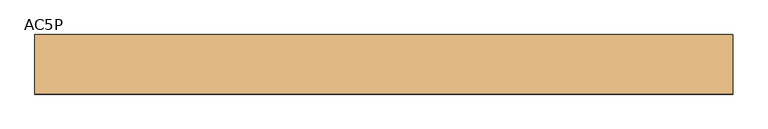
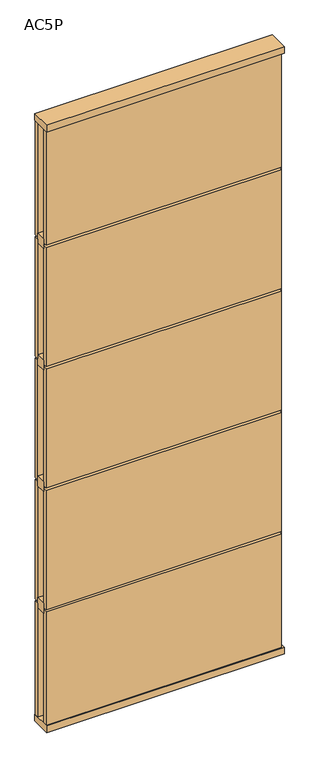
"""IFC4 building model written with IfcOpenShell, lengths in millimetres: door geometry, Mobiliário_Mobiliário de Escritório_Painel Cego - AC5P (Complementar)_Marelli : AC5P."""

import ifcopenshell
import ifcopenshell.guid

model = None  # the IFC model being written
_history = None  # IfcOwnerHistory: only IFC2X3 demands one
_inside = {}  # id of a spatial element -> (the spatial element, [elements in it])
_under = {}  # id of a project, library or spatial element -> (it, [spatial elements below it])
_declared = {}  # id of a project -> (the project, [libraries it declares])
_typed = {}  # id of a type object -> (the type object, [elements of that type])
_made_of = {}  # id of a material, layer set ... -> (it, [elements and type objects made of it])


def new_model(schema):
    """Start an empty IFC model of exactly this schema.

    Asked for "IFC4X3", IfcOpenShell would pick the latest addendum, in which some entities
    have other attributes; the version numbers below select the first issue.
    IFC2X3 requires an IfcOwnerHistory on every rooted entity: one is made here for all.
    """
    global model, _history
    if schema == "IFC4X3":
        model = ifcopenshell.file(schema_version=(4, 3, 0, 0))
    else:
        model = ifcopenshell.file(schema=schema)
    _inside.clear()
    _under.clear()
    _declared.clear()
    _typed.clear()
    _made_of.clear()
    _history = None
    if model.schema == "IFC2X3":
        org = make("IfcOrganization", Name="unknown")
        user = make(
            "IfcPersonAndOrganization",
            ThePerson=make("IfcPerson", FamilyName="unknown"),
            TheOrganization=org,
        )
        app = make(
            "IfcApplication",
            ApplicationDeveloper=org,
            Version="unknown",
            ApplicationFullName="unknown",
            ApplicationIdentifier="unknown",
        )
        _history = make(
            "IfcOwnerHistory",
            OwningUser=user,
            OwningApplication=app,
            ChangeAction="ADDED",
            CreationDate=0,
        )
    return model


def make(cls, **values):
    """One entity of the class cls with the attributes given. An attribute that is None is left unset."""
    return model.create_entity(
        cls, **{name: value for name, value in values.items() if value is not None}
    )


def rooted(cls, **values):
    """An entity with a GlobalId (a new one), such as an element, a storey or a relation."""
    return make(cls, GlobalId=ifcopenshell.guid.new(), OwnerHistory=_history, **values)


def si_unit(unit_type, name, prefix=None):
    """IfcSIUnit, for example si_unit("LENGTHUNIT", "METRE", prefix="MILLI")."""
    return make("IfcSIUnit", UnitType=unit_type, Prefix=prefix, Name=name)


def assignment(units):
    """IfcUnitAssignment: the units of a project."""
    return None if units is None else make("IfcUnitAssignment", Units=units)


def point(xyz):
    """IfcCartesianPoint."""
    return None if xyz is None else make("IfcCartesianPoint", Coordinates=xyz)


def direction(xyz):
    """IfcDirection."""
    return None if xyz is None else make("IfcDirection", DirectionRatios=xyz)


def frame(location, z_axis=None, x_axis=None):
    """IfcAxis2Placement3D, a coordinate frame: its origin and axes. An axis left out is left unset."""
    return make(
        "IfcAxis2Placement3D",
        Location=point(location),
        Axis=direction(z_axis),
        RefDirection=direction(x_axis),
    )


def origin():
    """The frame at (0, 0, 0) with its axes left unset."""
    return frame((0.0, 0.0, 0.0))


def origin_with_axes():
    """The frame at (0, 0, 0) with the z axis (0, 0, 1) and the x axis (1, 0, 0) written out."""
    return frame((0.0, 0.0, 0.0), z_axis=(0.0, 0.0, 1.0), x_axis=(1.0, 0.0, 0.0))


def place(relative_to, where):
    """IfcLocalPlacement: puts the frame where relative to a parent placement (None: the world)."""
    return make(
        "IfcLocalPlacement", PlacementRelTo=relative_to, RelativePlacement=where
    )


def context(
    kind, dimensions, precision=None, world=None, true_north=None, identifier=None
):
    """IfcGeometricRepresentationContext, for example the 3D "Model" context."""
    return make(
        "IfcGeometricRepresentationContext",
        ContextIdentifier=identifier,
        ContextType=kind,
        CoordinateSpaceDimension=dimensions,
        Precision=precision,
        WorldCoordinateSystem=world,
        TrueNorth=true_north,
    )


def project(units=None, contexts=None):
    """IfcProject with its units and contexts."""
    return rooted(
        "IfcProject",
        Name="project",
        RepresentationContexts=contexts,
        UnitsInContext=assignment(units),
    )


def spatial(cls, under=None, at=None, **own):
    """A site, building, storey or space (cls), placed at a placement, below another one or the project."""
    s = rooted(cls, ObjectPlacement=at, **own)
    if under is not None:
        _under.setdefault(under.id(), (under, []))[1].append(s)
    return s


def polyline(points):
    """IfcPolyline through the points."""
    return make("IfcPolyline", Points=[point(p) for p in points])


def outline(outer, holes=None, kind="AREA"):
    """IfcArbitraryClosedProfileDef: a profile drawn as a closed curve; with holes, ...WithVoids."""
    if holes is None:
        return make("IfcArbitraryClosedProfileDef", ProfileType=kind, OuterCurve=outer)
    return make(
        "IfcArbitraryProfileDefWithVoids",
        ProfileType=kind,
        OuterCurve=outer,
        InnerCurves=holes,
    )


def extrude(swept, where, along, depth):
    """IfcExtrudedAreaSolid: the profile swept, set in the frame where, extruded along a direction by depth."""
    return make(
        "IfcExtrudedAreaSolid",
        SweptArea=swept,
        Position=where,
        ExtrudedDirection=direction(along),
        Depth=depth,
    )


def shape(context_of_items, identifier, shape_type, items):
    """IfcShapeRepresentation: the items that make up one representation, for example the "Body"."""
    return make(
        "IfcShapeRepresentation",
        ContextOfItems=context_of_items,
        RepresentationIdentifier=identifier,
        RepresentationType=shape_type,
        Items=items,
    )


def source(mapping_origin, context_of_items, identifier, shape_type, items):
    """IfcRepresentationMap: a shape defined once, which mapped items show again and again."""
    return make(
        "IfcRepresentationMap",
        MappingOrigin=mapping_origin,
        MappedRepresentation=shape(context_of_items, identifier, shape_type, items),
    )


def transform(
    local_origin,
    x_axis=None,
    y_axis=None,
    z_axis=None,
    scale=None,
    scale2=None,
    scale3=None,
    uniform=True,
):
    """IfcCartesianTransformationOperator3D, or its non-uniform kind. x_axis, y_axis, z_axis: its Axis1, 2, 3."""
    if uniform:
        return make(
            "IfcCartesianTransformationOperator3D",
            Axis1=direction(x_axis),
            Axis2=direction(y_axis),
            LocalOrigin=point(local_origin),
            Scale=scale,
            Axis3=direction(z_axis),
        )
    return make(
        "IfcCartesianTransformationOperator3DnonUniform",
        Axis1=direction(x_axis),
        Axis2=direction(y_axis),
        LocalOrigin=point(local_origin),
        Scale=scale,
        Axis3=direction(z_axis),
        Scale2=scale2,
        Scale3=scale3,
    )


def mapped(mapping_source, mapping_target):
    """IfcMappedItem: shows the shape of a source again, moved by a transform."""
    return make(
        "IfcMappedItem", MappingSource=mapping_source, MappingTarget=mapping_target
    )


def made_of(thing, what):
    """Note that an element or type object is made of a material, layer set ...; save() writes the relation."""
    if what is not None:
        _made_of.setdefault(what.id(), (what, []))[1].append(thing)
    return thing


def element(
    cls,
    number,
    at=None,
    inside=None,
    cuts=None,
    type_object=None,
    material=None,
    context=None,
    identifier="Body",
    shape_type=None,
    held_by="IfcProductDefinitionShape",
    body=None,
    shapes=None,
    **own,
):
    """One element of the class cls, such as IfcWall. Its Tag is "e" and its number.

    at: its placement. inside: the storey or other place that contains it. cuts: it is an
    opening in that element (IfcRelVoidsElement). A single representation is given by context,
    identifier, shape_type and body (its items); several are given by shapes. held_by: the class
    of the entity that holds the representations. save() writes the other relations.
    """
    e = rooted(cls, Tag="e%d" % number, ObjectPlacement=at, **own)
    if body is not None:
        shapes = [shape(context, identifier, shape_type, body)]
    if shapes is not None:
        e.Representation = make(held_by, Representations=shapes)
    if inside is not None:
        _inside.setdefault(inside.id(), (inside, []))[1].append(e)
    if cuts is not None:
        rooted(
            "IfcRelVoidsElement", RelatingBuildingElement=cuts, RelatedOpeningElement=e
        )
    if type_object is not None:
        _typed.setdefault(type_object.id(), (type_object, []))[1].append(e)
    return made_of(e, material)


def aggregate(whole, parts):
    """IfcRelAggregates: a whole, such as a stair, and the parts it consists of."""
    return rooted("IfcRelAggregates", RelatingObject=whole, RelatedObjects=parts)


def save(model, path):
    """Write the relations noted so far, then the file.

    IfcRelAggregates (storeys below a building ...), IfcRelContainedInSpatialStructure (elements
    in a storey), IfcRelDefinesByType, IfcRelAssociatesMaterial and IfcRelDeclares: one each for
    every whole, place, type object, material and project.
    """
    for whole, parts in _under.values():
        aggregate(whole, parts)
    for where, things in _inside.values():
        rooted(
            "IfcRelContainedInSpatialStructure",
            RelatedElements=things,
            RelatingStructure=where,
        )
    for kind, things in _typed.values():
        rooted("IfcRelDefinesByType", RelatedObjects=things, RelatingType=kind)
    for what, things in _made_of.values():
        rooted("IfcRelAssociatesMaterial", RelatedObjects=things, RelatingMaterial=what)
    for by, libraries in _declared.values():
        rooted("IfcRelDeclares", RelatingContext=by, RelatedDefinitions=libraries)
    model.write(path)


def ac5p_90b039c0(model_context):
    return source(origin(), model_context, "Body", "SweptSolid", [
        extrude(outline(polyline([(500.0, 42.5), (500.0, -42.5), (-500.0, -42.5), (-500.0, 42.5), (500.0, 42.5)])), origin_with_axes(), (0.0, 0.0, 1.0), 30.0),
        extrude(outline(polyline([(490.0, 39.5), (490.0, 21.5), (-500.0, 21.5), (-500.0, 39.5), (490.0, 39.5)])), frame((0.0, 0.0, 30.0), z_axis=(0.0, 0.0, 1.0), x_axis=(1.0, 0.0, 0.0)), (0.0, 0.0, 1.0), 505.0),
        extrude(outline(polyline([(490.0, 21.5), (490.0, -21.5), (-500.0, -21.5), (-500.0, 21.5), (490.0, 21.5)])), frame((0.0, 0.0, 518.5), z_axis=(0.0, 0.0, 1.0), x_axis=(1.0, 0.0, 0.0)), (0.0, 0.0, 1.0), 43.0),
        extrude(outline(polyline([(490.0, 21.5), (490.0, -21.5), (-500.0, -21.5), (-500.0, 21.5), (490.0, 21.5)])), frame((0.0, 0.0, 1058.5), z_axis=(0.0, 0.0, 1.0), x_axis=(1.0, 0.0, 0.0)), (0.0, 0.0, 1.0), 43.0),
        extrude(outline(polyline([(490.0, 39.5), (490.0, 21.5), (-500.0, 21.5), (-500.0, 39.5), (490.0, 39.5)])), frame((0.0, 0.0, 545.0), z_axis=(0.0, 0.0, 1.0), x_axis=(1.0, 0.0, 0.0)), (0.0, 0.0, 1.0), 530.0),
        extrude(outline(polyline([(490.0, -39.5), (-500.0, -39.5), (-500.0, -21.5), (490.0, -21.5), (490.0, -39.5)])), frame((0.0, 0.0, 30.0), z_axis=(0.0, 0.0, 1.0), x_axis=(1.0, 0.0, 0.0)), (0.0, 0.0, 1.0), 505.0),
        extrude(outline(polyline([(490.0, -39.5), (-500.0, -39.5), (-500.0, -21.5), (490.0, -21.5), (490.0, -39.5)])), frame((0.0, 0.0, 545.0), z_axis=(0.0, 0.0, 1.0), x_axis=(1.0, 0.0, 0.0)), (0.0, 0.0, 1.0), 530.0),
        extrude(outline(polyline([(500.0, 42.5), (500.0, -42.5), (-500.0, -42.5), (-500.0, 42.5), (500.0, 42.5)])), frame((0.0, 0.0, 2670.0), z_axis=(0.0, 0.0, 1.0), x_axis=(1.0, 0.0, 0.0)), (0.0, 0.0, 1.0), 30.0),
        extrude(outline(polyline([(490.0, 39.5), (490.0, 21.5), (-500.0, 21.5), (-500.0, 39.5), (490.0, 39.5)])), frame((0.0, 0.0, 1625.0), z_axis=(0.0, 0.0, 1.0), x_axis=(1.0, 0.0, 0.0)), (0.0, 0.0, 1.0), 530.0),
        extrude(outline(polyline([(490.0, 21.5), (490.0, -21.5), (-500.0, -21.5), (-500.0, 21.5), (490.0, 21.5)])), frame((0.0, 0.0, 2138.5), z_axis=(0.0, 0.0, 1.0), x_axis=(1.0, 0.0, 0.0)), (0.0, 0.0, 1.0), 43.0),
        extrude(outline(polyline([(490.0, 21.5), (490.0, -21.5), (-500.0, -21.5), (-500.0, 21.5), (490.0, 21.5)])), frame((0.0, 0.0, 1598.5), z_axis=(0.0, 0.0, 1.0), x_axis=(1.0, 0.0, 0.0)), (0.0, 0.0, 1.0), 43.0),
        extrude(outline(polyline([(490.0, -39.5), (-500.0, -39.5), (-500.0, -21.5), (490.0, -21.5), (490.0, -39.5)])), frame((0.0, 0.0, 1625.0), z_axis=(0.0, 0.0, 1.0), x_axis=(1.0, 0.0, 0.0)), (0.0, 0.0, 1.0), 530.0),
        extrude(outline(polyline([(500.0, -21.5), (490.0, -21.5), (490.0, 21.5), (500.0, 21.5), (500.0, -21.5)])), frame((0.0, 0.0, 30.0), z_axis=(0.0, 0.0, 1.0), x_axis=(1.0, 0.0, 0.0)), (0.0, 0.0, 1.0), 2640.0),
        extrude(outline(polyline([(490.0, 39.5), (490.0, 21.5), (-500.0, 21.5), (-500.0, 39.5), (490.0, 39.5)])), frame((0.0, 0.0, 2165.0), z_axis=(0.0, 0.0, 1.0), x_axis=(1.0, 0.0, 0.0)), (0.0, 0.0, 1.0), 505.0),
        extrude(outline(polyline([(490.0, -39.5), (-500.0, -39.5), (-500.0, -21.5), (490.0, -21.5), (490.0, -39.5)])), frame((0.0, 0.0, 2165.0), z_axis=(0.0, 0.0, 1.0), x_axis=(1.0, 0.0, 0.0)), (0.0, 0.0, 1.0), 505.0),
        extrude(outline(polyline([(490.0, 39.5), (490.0, 21.5), (-500.0, 21.5), (-500.0, 39.5), (490.0, 39.5)])), frame((0.0, 0.0, 1085.0), z_axis=(0.0, 0.0, 1.0), x_axis=(1.0, 0.0, 0.0)), (0.0, 0.0, 1.0), 530.0),
        extrude(outline(polyline([(490.0, -39.5), (-500.0, -39.5), (-500.0, -21.5), (490.0, -21.5), (490.0, -39.5)])), frame((0.0, 0.0, 1085.0), z_axis=(0.0, 0.0, 1.0), x_axis=(1.0, 0.0, 0.0)), (0.0, 0.0, 1.0), 530.0),
    ])


if __name__ == "__main__":
    model = new_model("IFC4")
    model_context = context("Model", 3, world=origin())
    ifc_project = project(units=[si_unit("LENGTHUNIT", "METRE", prefix="MILLI")], contexts=[model_context])
    site = spatial("IfcSite", under=ifc_project)
    building = spatial("IfcBuilding", under=site)
    placement = place(None, origin())
    ac5p_shape = ac5p_90b039c0(model_context)
    element("IfcDoor", 1, ObjectType="Mobiliário_Mobiliário de Escritório_Painel Cego - AC5P (Complementar)_Marelli : AC5P", at=placement, inside=building, context=model_context, shape_type="MappedRepresentation", body=[
        mapped(ac5p_shape, transform((0.0, 0.0, 0.0), x_axis=(1.0, 0.0, 0.0), y_axis=(0.0, 1.0, 0.0), z_axis=(0.0, 0.0, 1.0))),
    ])
    save(model, "model.ifc")
